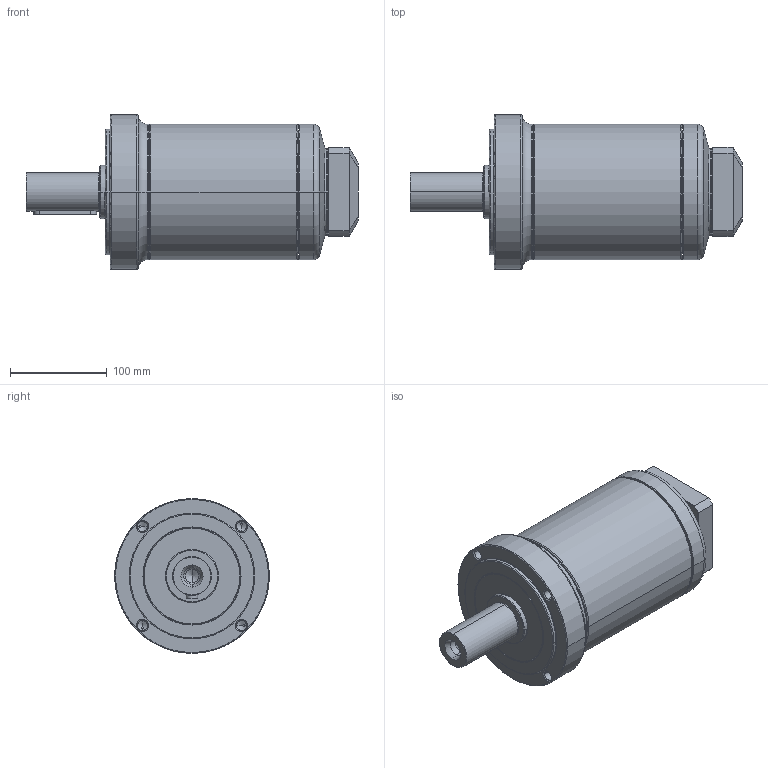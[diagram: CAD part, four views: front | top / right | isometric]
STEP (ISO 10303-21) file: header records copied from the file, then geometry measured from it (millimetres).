
FILE_DESCRIPTION((''),'2;1');
FILE_NAME('PG2-160_3ST_19-P0411400101_ASM','2016-04-19T',('d01943'),(''),'PRO/ENGINEER BY PARAMETRIC TECHNOLOGY CORPORATION, 2008410','PRO/ENGINEER BY PARAMETRIC TECHNOLOGY CORPORATION, 2008410','');
FILE_SCHEMA(('CONFIG_CONTROL_DESIGN'));
Length unit declared in the file: millimetre
Products named in the file (9): P1325510001; P0273500001; P1324500001; P0350501103; P0411400101; P0503400008; P0941500001; P1702500001; PG2-160_3ST_19-P0411400101_ASM
Assembly tree (8 placements, depth 2):
  PG2-160_3ST_19-P0411400101_ASM
    P1325510001
    P0273500001
    P1324500001
    P0350501103
    P0411400101
    P0503400008
    P0941500001
    P1702500001
Bounding box: 343.5 x 160 x 160 mm (x, y, z)
Volume: 2483780.8 mm3; surface area: 365412.7 mm2
Topology: 8 solids, 9 shells, 478 faces, 1042 edges, 600 vertices
Faces by surface type: cylinder 143, cone 140, torus 100, plane 79, bspline 16
Entity records: 17728 total; most frequent: CARTESIAN_POINT 6985, DIRECTION 2462, ORIENTED_EDGE 2028, AXIS2_PLACEMENT_3D 1058, EDGE_CURVE 1014, VERTEX_POINT 600, CIRCLE 579, EDGE_LOOP 542
